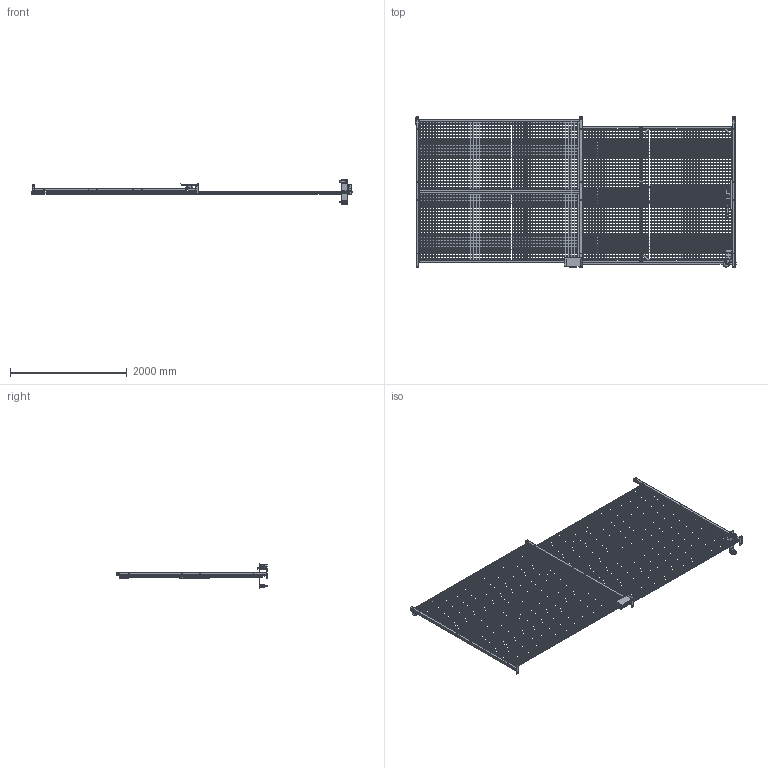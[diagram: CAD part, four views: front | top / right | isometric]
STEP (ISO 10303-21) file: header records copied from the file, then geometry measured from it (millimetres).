
FILE_DESCRIPTION (( 'STEP AP214' ), '1' );
FILE_NAME ('TD888LHI.STEP', '2021-04-01T13:54:26', ( '' ), ( '' ), 'SwSTEP 2.0', 'SolidWorks 2021', '' );
FILE_SCHEMA (( 'AUTOMOTIVE_DESIGN' ));
Length unit declared in the file: inch
Products named in the file (57): COMMON FLAT BAR_PX4F; TDZBKT; COMMON STRU ANGLE 11418_PXSD8PL; TDCASTER.stp; COMMON 840 SLIDE DOOR_SD5-LH; COMMON STRU ANGLE 11418_PXSD5PC; SDTDCP; SGDG12; SDCGUS; COMMON 840 SD TRK ASSEMBLY_TDTRK9 RHI; SUD12HANDLE; SDREC; SB-1; SDSCH412238; SUD12HNDLWELD; COMMON MESH_MHSD5; SF-1 LATCH; COMMON 840 SLIDE DOOR SUB_TD98LH; TDCASTER; SDRECB; COMMON MESH_SDL4; SDTT4WH_CUT BOLT; POST CAP; COMMON MESH_MH94; HDLKPLATEF; SDLKCOV; COMMON SD TRK_TDTRK9; COMMON FLAT BAR_PXSDFV; COMMON STRU ANGLE 11418_PXL4PC; COMMON STRU ANGLE 11418_PX9; SDTDPBLTON; Part11.stp; SDRECA; COMMON 840 POST WELD_DP8P; SUD12HNDLBPU; Part9.stp; SDLKRECT; COMMON TD CAP_TDCAP9; COMMON 840 SLIDE DOOR_SDL4; Part13.stp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
Assembly tree (411 placements, depth 5):
  TD888LHI
    COMMON 840 POST WELD_DP8P  x3
      COMMON BASE PLATE_BP27
      COMMON 840 POST_DP8P
      POST CAP
    COMMON 840 SD TRK ASSEMBLY_TDTRK9 RHI
      COMMON SD TRK_TDTRK9
      SDTCBKT  x2
    COMMON 840 SLIDE DOOR SUB_TD98LH
      COMMON 840 SLIDE DOOR_SD5-LH
        COMMON STRU ANGLE 11418_PXSD5PC  x2
        COMMON STRU ANGLE 11418_PXSD8PX
        COMMON STRU ANGLE 11418_PXSD8PL
        HDLKPLATEF
        HDLKPLATEB
        COMMON FLAT BAR_PXSD5FH  x2
        COMMON FLAT BAR_PXSDFV  x2
        SDLKCOV
        COMMON MESH_MHSD5
          COMMON WIRE_10GA X 61  x91
          COMMON WIRE_10GA X 90.5  x31
        SF-1 LATCH
          SF-1 LATCH
          SB-1
        SDCGUS  x4
      COMMON 840 SLIDE DOOR_SDL4
        COMMON STRU ANGLE 11418_PXL4PC  x2
        COMMON STRU ANGLE 11418_PXSD8PX  x2
        COMMON MESH_SDL4
          COMMON WIRE_10GA X 47  x91
          COMMON WIRE_10GA X 90.5  x24
        COMMON FLAT BAR_PX4F
    SDTT4WH_CUT BOLT
      SDTT4WH_NO BOLT
      FS12412TMS
    SGDG12
    SDREC
      SDRECB
      SDLKRECT
      SDRECA
    COMMON SD COVER BAR_SDCB9
    SDTDPBLTON
    SDTDCP  x2
    SUD12HNDLWELD
      SUD12HANDLE
      SUD12HNDLBPU
    SUD12HNDLBPU
    TDZBKT
    TDCASTER  x2
      TDCASTER.stp
        Part9.stp
        Part11.stp
        Part13.stp
    COMMON 840 PANEL FRAME_94  x2
      COMMON STRU ANGLE 11418_PX9
      COMMON STRU ANGLE 11418_PX4PC
      COMMON FLAT BAR_PX4F
      COMMON MESH_MH94
        COMMON WIRE_10GA X 107  x47
        COMMON WIRE_10GA X 47  x54
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Bounding box: 5476.86 x 2575.56 x 420.12 mm (x, y, z)
Volume: 21466105.7 mm3; surface area: 18416407.5 mm2
Topology: 516 solids, 521 shells, 4108 faces, 8439 edges, 5444 vertices
Faces by surface type: plane 2380, cylinder 1294, cone 193, bspline 193, torus 44, sphere 4
Full cylindrical faces by diameter (mm): 3.429 x439, 5.182 x4, 6.35 x8, 9.525 x88, 11.112 x10, 11.113 x8, 12.7 x69, 14.021 x1, 14.046 x1, 14.287 x18, 19.05 x1, 34.049 x1, 35.687 x1, 38.862 x1, 44.704 x1, 45.822 x1, 47.625 x4, 50.8 x4, 53.975 x4, 57.15 x6, 60.325 x2, 101.6 x2
Entity records: 85159 total; most frequent: CARTESIAN_POINT 34081, DIRECTION 9591, ORIENTED_EDGE 9190, EDGE_CURVE 4607, AXIS2_PLACEMENT_3D 3356, VERTEX_POINT 3106, VECTOR 2879, LINE 2879
